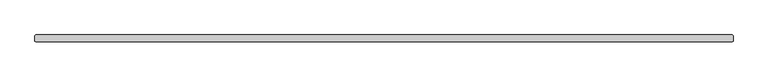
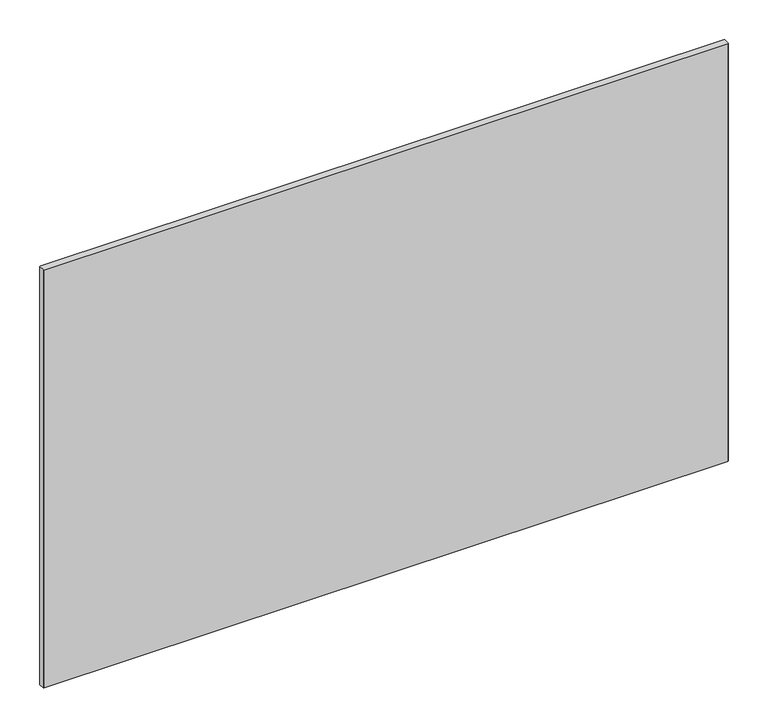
"""IFC4 building model written with IfcOpenShell, lengths in millimetres: plate geometry, Panel Flex Glassline : Panel Flex Glassline."""

from ifc_helpers import new_model, si_unit, origin, origin_with_axes, place, context, project, spatial, polyline, outline, extrude, source, transform, mapped, element, save


def plate_4b7810f1(model_context):
    return source(origin(), model_context, "Body", "SweptSolid", [
        extrude(outline(polyline([(498.5, 12.0), (499.5, 11.0), (499.5, 3.0), (498.5, 2.0), (-498.5, 2.0), (-499.5, 3.0), (-499.5, 11.0), (-498.5, 12.0), (498.5, 12.0)])), origin_with_axes(), (0.0, 0.0, 1.0), 644.999955),
    ])


if __name__ == "__main__":
    model = new_model("IFC4")
    model_context = context("Model", 3, world=origin())
    ifc_project = project(units=[si_unit("LENGTHUNIT", "METRE", prefix="MILLI")], contexts=[model_context])
    site = spatial("IfcSite", under=ifc_project)
    building = spatial("IfcBuilding", under=site)
    placement = place(None, origin())
    plate_shape = plate_4b7810f1(model_context)
    element("IfcPlate", 1, ObjectType="Panel Flex Glassline : Panel Flex Glassline", at=placement, inside=building, context=model_context, shape_type="MappedRepresentation", body=[
        mapped(plate_shape, transform((0.0, 0.0, 0.0), x_axis=(1.0, 0.0, 0.0), y_axis=(0.0, 1.0, 0.0), z_axis=(0.0, 0.0, 1.0))),
    ])
    save(model, "model.ifc")
